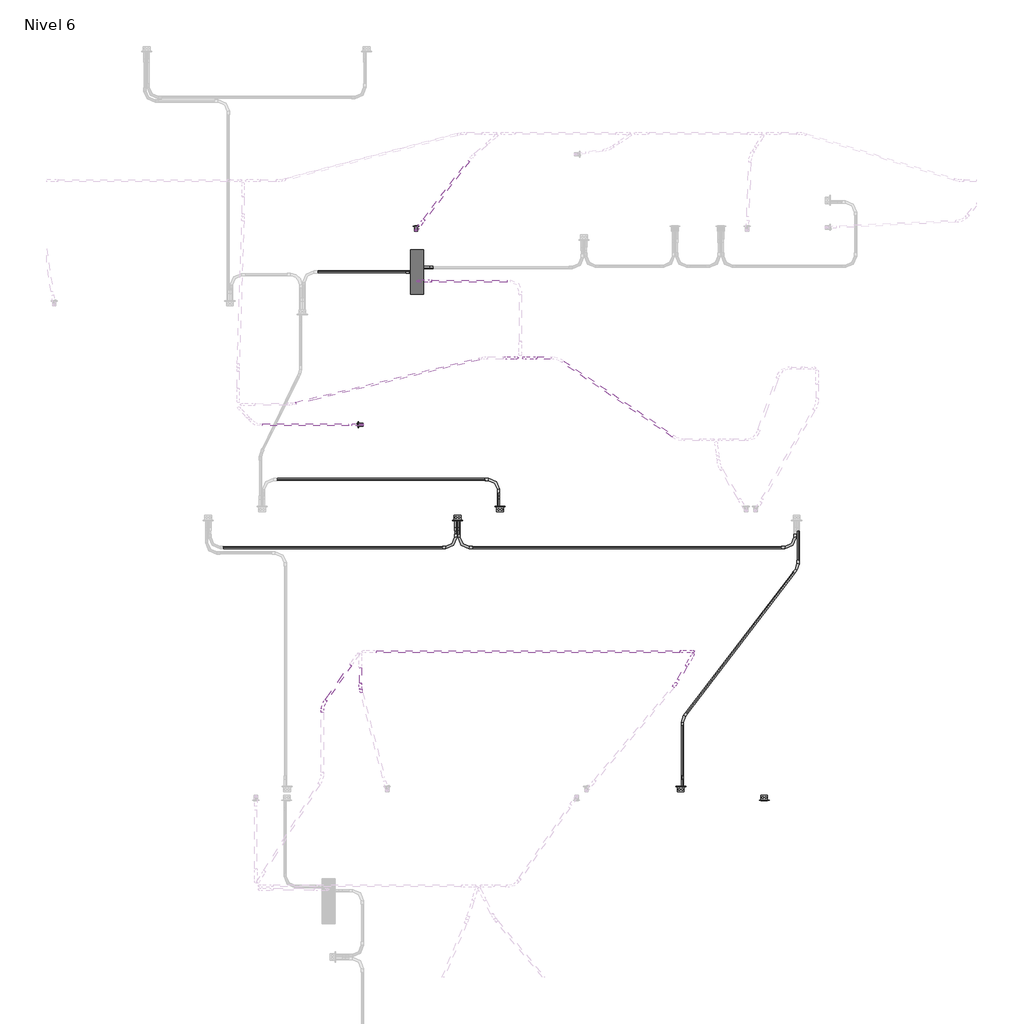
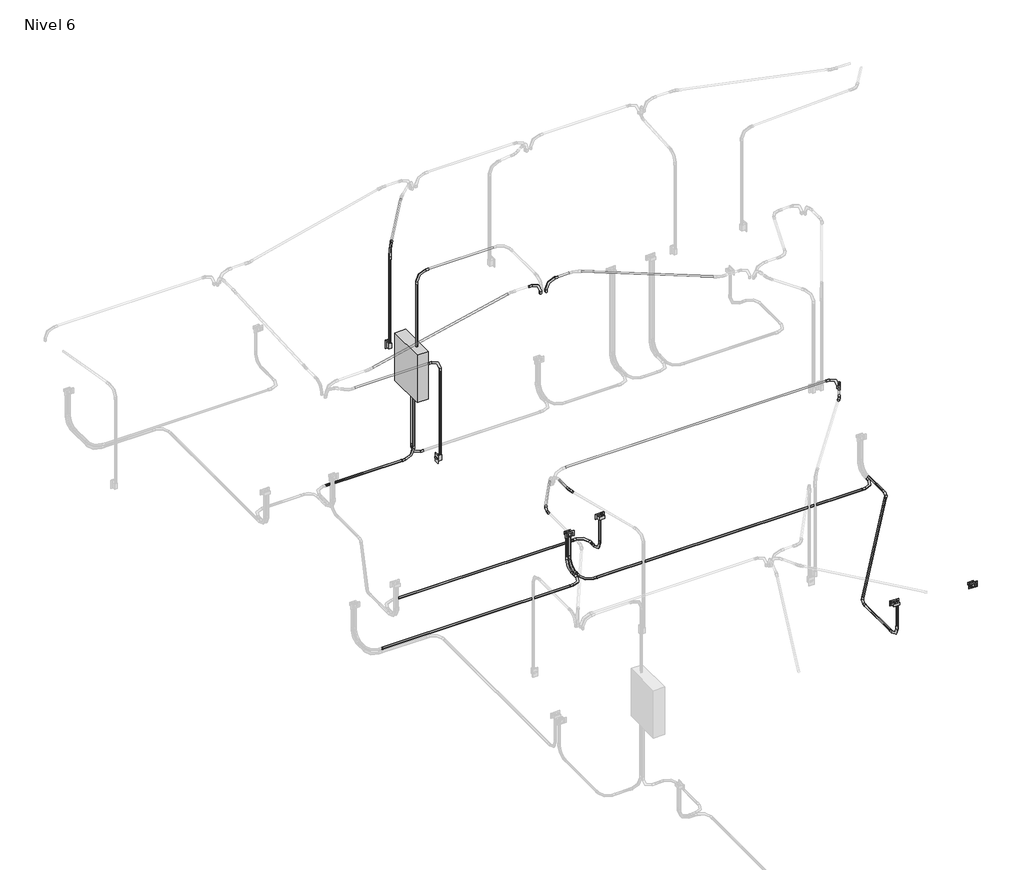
# One storey, part 7 of 9: 29 cable carrier segments, 22 cable carrier fittings, 5 proxies, 2 switching devices.
"""IFC4 building model written with IfcOpenShell, lengths in millimetres."""

from ifc_helpers import new_model, si_unit, point, frame, frame_2d, origin, place, context, project, spatial, circle_curve, trimmed, segment, composite_curve, outline, extrude, transform, mapped, element, save
from components import proxy_125_a_fe578df2, gfci_180f1b41, m_codo_de_tubo_extremo_liso_pvc_9da73e12, m_codo_de_tubo_extremo_liso_pvc_a9b8cca8, m_codo_de_tubo_extremo_liso_pvc_102f0f41, m_codo_de_tubo_extremo_liso_pvc_a4cd2416, m_codo_de_tubo_extremo_liso_pvc_3c3806b2, m_codo_de_tubo_extremo_liso_pvc_4ed3fce8, switching_device_22fed34b

model = new_model("IFC4")

# Units and contexts
model_context = context("Model", 3, world=origin())
ifc_project = project(units=[si_unit("LENGTHUNIT", "METRE", prefix="MILLI")], contexts=[model_context])

# Site, building, storey
site = spatial("IfcSite", under=ifc_project)
building = spatial("IfcBuilding", under=site)
storey = spatial("IfcBuildingStorey", under=building, Name="Nivel 6", Elevation=13400.0)

# Proxies
placement = place(None, origin())
proxy_125_a_shape = proxy_125_a_fe578df2(model_context)
element("IfcBuildingElementProxy", 1, Name="M_Cuadro de control de accesorios e iluminación - 480V MLO : 125 A", ObjectType="M_Cuadro de control de accesorios e iluminación - 480V MLO : 125 A", at=placement, inside=storey, context=model_context, shape_type="MappedRepresentation", body=[
    mapped(proxy_125_a_shape, transform((1335.0, 15019.551951, 14226.1274047), x_axis=(0.0, 1.0, 0.0), y_axis=(0.0, 0.0, 1.0), z_axis=(1.0, 0.0, 0.0))),
])
gfci_shape = gfci_180f1b41(model_context)
element("IfcBuildingElementProxy", 2, Name="Tomacorriente doble 220V : GFCI", ObjectType="Tomacorriente doble 220V : GFCI", at=placement, inside=storey, context=model_context, shape_type="MappedRepresentation", body=[
    mapped(gfci_shape, transform((2203.1210977, 12365.0, 13800.0), x_axis=(0.0, 0.0, 1.0), y_axis=(1.0, 0.0, 0.0), z_axis=(0.0, 1.0, 0.0))),
])
element("IfcBuildingElementProxy", 3, Name="Tomacorriente doble 220V : GFCI", ObjectType="Tomacorriente doble 220V : GFCI", at=placement, inside=storey, context=model_context, shape_type="MappedRepresentation", body=[
    mapped(gfci_shape, transform((1721.0092012, 12215.0, 13800.0), x_axis=(0.0, 0.0, 1.0), y_axis=(-1.0, 0.0, 0.0), z_axis=(0.0, -1.0, 0.0))),
])
element("IfcBuildingElementProxy", 4, Name="Tomacorriente doble 220V : GFCI", ObjectType="Tomacorriente doble 220V : GFCI", at=placement, inside=storey, context=model_context, shape_type="MappedRepresentation", body=[
    mapped(gfci_shape, transform((4247.1818589, 9199.6373182, 13800.0), x_axis=(0.0, 0.0, 1.0), y_axis=(1.0, 0.0, 0.0), z_axis=(0.0, 1.0, 0.0))),
])
element("IfcBuildingElementProxy", 5, Name="Tomacorriente doble 220V : GFCI", ObjectType="Tomacorriente doble 220V : GFCI", at=placement, inside=storey, context=model_context, shape_type="MappedRepresentation", body=[
    mapped(gfci_shape, transform((5190.9059958, 9049.6373182, 13800.0), x_axis=(0.0, 0.0, 1.0), y_axis=(-1.0, 0.0, 0.0), z_axis=(0.0, -1.0, 0.0))),
])

# Cable carrier fittings
m_codo_de_tubo_extremo_liso_pvc_shape = m_codo_de_tubo_extremo_liso_pvc_9da73e12(model_context)
element("IfcCableCarrierFitting", 6, ObjectType="M_Codo de tubo - Extremo liso - PVC : CODO POTENCIA", at=placement, inside=storey, context=model_context, shape_type="MappedRepresentation", body=[
    mapped(m_codo_de_tubo_extremo_liso_pvc_shape, transform((2185.0892778, 12335.3628882, 13330.0), x_axis=(0.0, 0.0, -1.0), y_axis=(0.0, 1.0, 0.0), z_axis=(1.0, 0.0, 0.0))),
])
element("IfcCableCarrierFitting", 7, ObjectType="M_Codo de tubo - Extremo liso - PVC : CODO POTENCIA", at=placement, inside=storey, context=model_context, shape_type="MappedRepresentation", body=[
    mapped(m_codo_de_tubo_extremo_liso_pvc_shape, transform((2185.0892778, 12675.3628882, 13330.0), x_axis=(0.0, 1.0, 0.0), y_axis=(-1.0, 0.0, 0.0), z_axis=(0.0, 0.0, 1.0))),
])
element("IfcCableCarrierFitting", 8, ObjectType="M_Codo de tubo - Extremo liso - PVC : CODO POTENCIA", at=placement, inside=storey, context=model_context, shape_type="MappedRepresentation", body=[
    mapped(m_codo_de_tubo_extremo_liso_pvc_shape, transform((1739.041021, 12244.6371118, 13330.0), x_axis=(0.0, 0.0, -1.0), y_axis=(0.0, -1.0, 0.0), z_axis=(-1.0, 0.0, 0.0))),
])
element("IfcCableCarrierFitting", 9, ObjectType="M_Codo de tubo - Extremo liso - PVC : CODO POTENCIA", at=placement, inside=storey, context=model_context, shape_type="MappedRepresentation", body=[
    mapped(m_codo_de_tubo_extremo_liso_pvc_shape, transform((4265.2136788, 9170.0002064, 13330.0), x_axis=(0.0, 0.0, -1.0), y_axis=(0.0, 1.0, 0.0), z_axis=(1.0, 0.0, 0.0))),
])
element("IfcCableCarrierFitting", 10, ObjectType="M_Codo de tubo - Extremo liso - PVC : CODO POTENCIA", at=placement, inside=storey, context=model_context, shape_type="MappedRepresentation", body=[
    mapped(m_codo_de_tubo_extremo_liso_pvc_shape, transform((1739.041021, 11904.6371118, 13330.0), x_axis=(0.0, -1.0, 0.0), y_axis=(1.0, 0.0, 0.0), z_axis=(0.0, 0.0, 1.0))),
])
element("IfcCableCarrierFitting", 11, ObjectType="M_Codo de tubo - Extremo liso - PVC : CODO POTENCIA", at=placement, inside=storey, context=model_context, shape_type="MappedRepresentation", body=[
    mapped(m_codo_de_tubo_extremo_liso_pvc_shape, transform((5539.0954829, 11904.6371118, 13330.0), x_axis=(1.0, 0.0, 0.0), y_axis=(0.0, 1.0, 0.0), z_axis=(0.0, 0.0, 1.0))),
])
element("IfcCableCarrierFitting", 12, ObjectType="M_Codo de tubo - Extremo liso - PVC : CODO POTENCIA", at=placement, inside=storey, context=model_context, shape_type="MappedRepresentation", body=[
    mapped(m_codo_de_tubo_extremo_liso_pvc_shape, transform((1702.9773813, 11904.6371118, 13330.0), x_axis=(1.0, 0.0, 0.0), y_axis=(0.0, 1.0, 0.0), z_axis=(0.0, 0.0, 1.0))),
])
element("IfcCableCarrierFitting", 13, ObjectType="M_Codo de tubo - Extremo liso - PVC : CODO POTENCIA", at=placement, inside=storey, context=model_context, shape_type="MappedRepresentation", body=[
    mapped(m_codo_de_tubo_extremo_liso_pvc_shape, transform((1702.9773813, 12244.6371118, 13330.0), x_axis=(0.0, 0.0, -1.0), y_axis=(0.0, -1.0, 0.0), z_axis=(-1.0, 0.0, 0.0))),
])
element("IfcCableCarrierFitting", 14, ObjectType="M_Codo de tubo - Extremo liso - PVC : CODO POTENCIA", at=placement, inside=storey, context=model_context, shape_type="MappedRepresentation", body=[
    mapped(m_codo_de_tubo_extremo_liso_pvc_shape, transform((1294.1893004, 15069.6371118, 13330.0), x_axis=(-1.0, 0.0, 0.0), y_axis=(0.0, 0.0, 1.0), z_axis=(0.0, 1.0, 0.0))),
])
element("IfcCableCarrierFitting", 15, ObjectType="M_Codo de tubo - Extremo liso - PVC : CODO POTENCIA", at=placement, inside=storey, context=model_context, shape_type="MappedRepresentation", body=[
    mapped(m_codo_de_tubo_extremo_liso_pvc_shape, transform((1290.3238393, 15020.5396141, 13330.0), x_axis=(1.0, 0.0, 0.0), y_axis=(0.0, 0.0, 1.0), z_axis=(0.0, -1.0, 0.0))),
])
m_codo_de_tubo_extremo_liso_pvc_2_shape = m_codo_de_tubo_extremo_liso_pvc_a9b8cca8(model_context)
element("IfcCableCarrierFitting", 16, ObjectType="M_Codo de tubo - Extremo liso - PVC : CODO POTENCIA", at=placement, inside=storey, context=model_context, shape_type="MappedRepresentation", body=[
    mapped(m_codo_de_tubo_extremo_liso_pvc_2_shape, transform((4265.2136788, 9970.0002064, 13330.0), x_axis=(-0.6070852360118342, -0.7946367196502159, 0.0), y_axis=(0.7946367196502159, -0.6070852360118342, 0.0), z_axis=(0.0, 0.0, 1.0))),
])
element("IfcCableCarrierFitting", 17, ObjectType="M_Codo de tubo - Extremo liso - PVC : CODO POTENCIA", at=placement, inside=storey, context=model_context, shape_type="MappedRepresentation", body=[
    mapped(m_codo_de_tubo_extremo_liso_pvc_2_shape, transform((5575.1591225, 11684.6371118, 13330.0), x_axis=(0.6070852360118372, 0.7946367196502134, 0.0), y_axis=(-0.7946367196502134, 0.6070852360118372, 0.0), z_axis=(0.0, 0.0, 1.0))),
])
element("IfcCableCarrierFitting", 18, ObjectType="M_Codo de tubo - Extremo liso - PVC : CODO ILUMINACION", at=placement, inside=storey, context=model_context, shape_type="MappedRepresentation", body=[
    mapped(m_codo_de_tubo_extremo_liso_pvc_shape, transform((2469.436921, 14047.5205481, 15950.0), x_axis=(-1.0, 0.0, 0.0), y_axis=(0.0, 0.0, -1.0), z_axis=(0.0, -1.0, 0.0))),
])
element("IfcCableCarrierFitting", 19, ObjectType="M_Codo de tubo - Extremo liso - PVC : CODO ILUMINACION", at=placement, inside=storey, context=model_context, shape_type="MappedRepresentation", body=[
    mapped(m_codo_de_tubo_extremo_liso_pvc_shape, transform((1273.3089238, 14916.0485453, 15950.0), x_axis=(-1.0, 0.0, 0.0), y_axis=(0.0, 0.0, -1.0), z_axis=(0.0, -1.0, 0.0))),
])
element("IfcCableCarrierFitting", 20, ObjectType="M_Codo de tubo - Extremo liso - PVC : CODO ILUMINACION", at=placement, inside=storey, context=model_context, shape_type="MappedRepresentation", body=[
    mapped(m_codo_de_tubo_extremo_liso_pvc_shape, transform((1253.0914815, 15491.8611243, 15950.0), x_axis=(0.0, 0.0, 1.0), y_axis=(0.6000012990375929, 0.7999990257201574, 0.0), z_axis=(-0.7999990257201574, 0.6000012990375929, 0.0))),
])
element("IfcCableCarrierFitting", 21, ObjectType="M_Codo de tubo - Extremo liso - PVC : CODO ILUMINACION", at=placement, inside=storey, context=model_context, shape_type="MappedRepresentation", body=[
    mapped(m_codo_de_tubo_extremo_liso_pvc_shape, transform((643.1388757, 13292.5115575, 15950.0), x_axis=(0.0, 0.0, 1.0), y_axis=(-1.0, 0.0, 0.0), z_axis=(0.0, -1.0, 0.0))),
])
element("IfcCableCarrierFitting", 22, ObjectType="M_Codo de tubo - Extremo liso - PVC : CODO ILUMINACION", at=placement, inside=storey, context=model_context, shape_type="MappedRepresentation", body=[
    mapped(m_codo_de_tubo_extremo_liso_pvc_shape, transform((4385.5653238, 10696.3649406, 15950.0), x_axis=(0.4999999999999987, 0.8660254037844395, 0.0), y_axis=(0.0, 0.0, -1.0000000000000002), z_axis=(-0.8660254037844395, 0.4999999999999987, 0.0))),
])
m_codo_de_tubo_extremo_liso_pvc_3_shape = m_codo_de_tubo_extremo_liso_pvc_102f0f41(model_context)
element("IfcCableCarrierFitting", 23, ObjectType="M_Codo de tubo - Extremo liso - PVC : CODO ILUMINACION", at=placement, inside=storey, context=model_context, shape_type="MappedRepresentation", body=[
    mapped(m_codo_de_tubo_extremo_liso_pvc_3_shape, transform((2397.1809266, 14047.5205481, 15950.0), x_axis=(1.0, 0.0, 0.0), y_axis=(0.0, 0.0, 1.0), z_axis=(0.0, -1.0, 0.0))),
])
element("IfcCableCarrierFitting", 24, ObjectType="M_Codo de tubo - Extremo liso - PVC : CODO ILUMINACION", at=placement, inside=storey, context=model_context, shape_type="MappedRepresentation", body=[
    mapped(m_codo_de_tubo_extremo_liso_pvc_3_shape, transform((4388.2642835, 10728.1040304, 15950.0), x_axis=(1.0, 0.0, 0.0), y_axis=(0.0, 0.0, 1.0), z_axis=(0.0, -1.0, 0.0))),
])
m_codo_de_tubo_extremo_liso_pvc_4_shape = m_codo_de_tubo_extremo_liso_pvc_a4cd2416(model_context)
element("IfcCableCarrierFitting", 25, ObjectType="M_Codo de tubo - Extremo liso - PVC : CODO ILUMINACION", at=placement, inside=storey, context=model_context, shape_type="MappedRepresentation", body=[
    mapped(m_codo_de_tubo_extremo_liso_pvc_4_shape, transform((192.5301532, 10117.4650071, 15950.0), x_axis=(-0.5735764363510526, -0.8191520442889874, 0.0), y_axis=(0.8191520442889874, -0.5735764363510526, 0.0), z_axis=(0.0, 0.0, 1.0))),
])
m_codo_de_tubo_extremo_liso_pvc_5_shape = m_codo_de_tubo_extremo_liso_pvc_3c3806b2(model_context)
element("IfcCableCarrierFitting", 26, ObjectType="M_Codo de tubo - Extremo liso - PVC : CODO ILUMINACION", at=placement, inside=storey, context=model_context, shape_type="MappedRepresentation", body=[
    mapped(m_codo_de_tubo_extremo_liso_pvc_5_shape, transform((622.9365839, 10316.8838113, 15950.0), x_axis=(0.0, -1.0, 0.0), y_axis=(1.0, 0.0, 0.0), z_axis=(0.0, 0.0, 1.0))),
])
m_codo_de_tubo_extremo_liso_pvc_6_shape = m_codo_de_tubo_extremo_liso_pvc_4ed3fce8(model_context)
element("IfcCableCarrierFitting", 27, ObjectType="M_Codo de tubo - Extremo liso - PVC : CODO ILUMINACION", at=placement, inside=storey, context=model_context, shape_type="MappedRepresentation", body=[
    mapped(m_codo_de_tubo_extremo_liso_pvc_6_shape, transform((4195.0653238, 10366.4092617, 15950.0), x_axis=(0.6445966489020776, 0.7645228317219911, 0.0), y_axis=(-0.7645228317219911, 0.6445966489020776, 0.0), z_axis=(0.0, 0.0, 1.0))),
])

# Cable carrier segments
element("IfcCableCarrierSegment", 28, ObjectType="PVC-SEL, POTENCIA", at=placement, inside=storey, context=model_context, shape_type="SweptSolid", body=[
    extrude(outline(composite_curve([segment(trimmed(circle_curve(frame_2d((13330.0, 2185.0892778)), 11.71), [point((13330.0, 2196.7992778))], [point((13341.71, 2185.0892778))], False, "CARTESIAN"), True, "CONTINUOUS"), segment(trimmed(circle_curve(frame_2d((13330.0, 2185.0892778)), 11.71), [point((13341.71, 2185.0892778))], [point((13330.0, 2173.3792778))], False, "CARTESIAN"), True, "CONTINUOUS"), segment(trimmed(circle_curve(frame_2d((13330.0, 2185.0892778)), 11.71), [point((13330.0, 2173.3792778))], [point((13318.29, 2185.0892778))], False, "CARTESIAN"), True, "CONTINUOUS"), segment(trimmed(circle_curve(frame_2d((13330.0, 2185.0892778)), 11.71), [point((13318.29, 2185.0892778))], [point((13330.0, 2196.7992778))], False, "CARTESIAN"), True, "CONTINUOUS")], self_intersect=False)), frame((0.0, 12487.7628882, 0.0), z_axis=(0.0, 1.0, 0.0), x_axis=(0.0, 0.0, 1.0)), (0.0, 0.0, 1.0), 35.2),
])
element("IfcCableCarrierSegment", 29, ObjectType="PVC-SEL, POTENCIA", at=placement, inside=storey, context=model_context, shape_type="SweptSolid", body=[
    extrude(outline(composite_curve([segment(trimmed(circle_curve(frame_2d((2185.0892778, 12335.3628882)), 11.71), [point((2196.7992778, 12335.3628882))], [point((2185.0892778, 12323.6528882))], False, "CARTESIAN"), True, "CONTINUOUS"), segment(trimmed(circle_curve(frame_2d((2185.0892778, 12335.3628882)), 11.71), [point((2185.0892778, 12323.6528882))], [point((2173.3792778, 12335.3628882))], False, "CARTESIAN"), True, "CONTINUOUS"), segment(trimmed(circle_curve(frame_2d((2185.0892778, 12335.3628882)), 11.71), [point((2173.3792778, 12335.3628882))], [point((2185.0892778, 12347.0728882))], False, "CARTESIAN"), True, "CONTINUOUS"), segment(trimmed(circle_curve(frame_2d((2185.0892778, 12335.3628882)), 11.71), [point((2185.0892778, 12347.0728882))], [point((2196.7992778, 12335.3628882))], False, "CARTESIAN"), True, "CONTINUOUS")], self_intersect=False)), frame((0.0, 0.0, 13482.4), z_axis=(0.0, 0.0, 1.0), x_axis=(1.0, 0.0, 0.0)), (0.0, 0.0, 1.0), 297.3020537),
])
element("IfcCableCarrierSegment", 30, ObjectType="PVC-SEL, POTENCIA", at=placement, inside=storey, context=model_context, shape_type="SweptSolid", body=[
    extrude(outline(composite_curve([segment(trimmed(circle_curve(frame_2d((12675.3628882, 13330.0)), 11.71), [point((12687.0728882, 13330.0))], [point((12675.3628882, 13318.29))], False, "CARTESIAN"), True, "CONTINUOUS"), segment(trimmed(circle_curve(frame_2d((12675.3628882, 13330.0)), 11.71), [point((12675.3628882, 13318.29))], [point((12663.6528882, 13330.0))], False, "CARTESIAN"), True, "CONTINUOUS"), segment(trimmed(circle_curve(frame_2d((12675.3628882, 13330.0)), 11.71), [point((12663.6528882, 13330.0))], [point((12675.3628882, 13341.71))], False, "CARTESIAN"), True, "CONTINUOUS"), segment(trimmed(circle_curve(frame_2d((12675.3628882, 13330.0)), 11.71), [point((12675.3628882, 13341.71))], [point((12687.0728882, 13330.0))], False, "CARTESIAN"), True, "CONTINUOUS")], self_intersect=False)), frame((-319.161029, 0.0, 0.0), z_axis=(1.0, 0.0, 0.0), x_axis=(0.0, 1.0, 0.0)), (0.0, 0.0, 1.0), 2351.8503068),
])
element("IfcCableCarrierSegment", 31, ObjectType="PVC-SEL, POTENCIA", at=placement, inside=storey, context=model_context, shape_type="SweptSolid", body=[
    extrude(outline(composite_curve([segment(trimmed(circle_curve(frame_2d((15020.5396141, 13330.0)), 11.71), [point((15008.8296141, 13330.0))], [point((15020.5396141, 13341.71))], False, "CARTESIAN"), True, "CONTINUOUS"), segment(trimmed(circle_curve(frame_2d((15020.5396141, 13330.0)), 11.71), [point((15020.5396141, 13341.71))], [point((15032.2496141, 13330.0))], False, "CARTESIAN"), True, "CONTINUOUS"), segment(trimmed(circle_curve(frame_2d((15020.5396141, 13330.0)), 11.71), [point((15032.2496141, 13330.0))], [point((15020.5396141, 13318.29))], False, "CARTESIAN"), True, "CONTINUOUS"), segment(trimmed(circle_curve(frame_2d((15020.5396141, 13330.0)), 11.71), [point((15020.5396141, 13318.29))], [point((15008.8296141, 13330.0))], False, "CARTESIAN"), True, "CONTINUOUS")], self_intersect=False)), frame((136.4600514, 0.0, 0.0), z_axis=(1.0, 0.0, 0.0), x_axis=(0.0, 1.0, 0.0)), (0.0, 0.0, 1.0), 1001.4637879),
])
element("IfcCableCarrierSegment", 32, ObjectType="PVC-SEL, POTENCIA", at=placement, inside=storey, context=model_context, shape_type="SweptSolid", body=[
    extrude(outline(composite_curve([segment(trimmed(circle_curve(frame_2d((13330.0, 1702.9773813)), 11.71), [point((13330.0, 1714.6873813))], [point((13341.71, 1702.9773813))], False, "CARTESIAN"), True, "CONTINUOUS"), segment(trimmed(circle_curve(frame_2d((13330.0, 1702.9773813)), 11.71), [point((13341.71, 1702.9773813))], [point((13330.0, 1691.2673813))], False, "CARTESIAN"), True, "CONTINUOUS"), segment(trimmed(circle_curve(frame_2d((13330.0, 1702.9773813)), 11.71), [point((13330.0, 1691.2673813))], [point((13318.29, 1702.9773813))], False, "CARTESIAN"), True, "CONTINUOUS"), segment(trimmed(circle_curve(frame_2d((13330.0, 1702.9773813)), 11.71), [point((13318.29, 1702.9773813))], [point((13330.0, 1714.6873813))], False, "CARTESIAN"), True, "CONTINUOUS")], self_intersect=False)), frame((0.0, 12057.0371118, 0.0), z_axis=(0.0, 1.0, 0.0), x_axis=(0.0, 0.0, 1.0)), (0.0, 0.0, 1.0), 35.2),
])
element("IfcCableCarrierSegment", 33, ObjectType="PVC-SEL, POTENCIA", at=placement, inside=storey, context=model_context, shape_type="SweptSolid", body=[
    extrude(outline(composite_curve([segment(trimmed(circle_curve(frame_2d((1702.9773813, 12244.6371118)), 11.71), [point((1714.6873813, 12244.6371118))], [point((1702.9773813, 12232.9271118))], False, "CARTESIAN"), True, "CONTINUOUS"), segment(trimmed(circle_curve(frame_2d((1702.9773813, 12244.6371118)), 11.71), [point((1702.9773813, 12232.9271118))], [point((1691.2673813, 12244.6371118))], False, "CARTESIAN"), True, "CONTINUOUS"), segment(trimmed(circle_curve(frame_2d((1702.9773813, 12244.6371118)), 11.71), [point((1691.2673813, 12244.6371118))], [point((1702.9773813, 12256.3471118))], False, "CARTESIAN"), True, "CONTINUOUS"), segment(trimmed(circle_curve(frame_2d((1702.9773813, 12244.6371118)), 11.71), [point((1702.9773813, 12256.3471118))], [point((1714.6873813, 12244.6371118))], False, "CARTESIAN"), True, "CONTINUOUS")], self_intersect=False)), frame((0.0, 0.0, 13482.4), z_axis=(0.0, 0.0, 1.0), x_axis=(1.0, 0.0, 0.0)), (0.0, 0.0, 1.0), 297.3020537),
])
element("IfcCableCarrierSegment", 34, ObjectType="PVC-SEL, POTENCIA", at=placement, inside=storey, context=model_context, shape_type="SweptSolid", body=[
    extrude(outline(composite_curve([segment(trimmed(circle_curve(frame_2d((13330.0, 1739.041021)), 11.71), [point((13330.0, 1727.331021))], [point((13318.29, 1739.041021))], False, "CARTESIAN"), True, "CONTINUOUS"), segment(trimmed(circle_curve(frame_2d((13330.0, 1739.041021)), 11.71), [point((13318.29, 1739.041021))], [point((13330.0, 1750.751021))], False, "CARTESIAN"), True, "CONTINUOUS"), segment(trimmed(circle_curve(frame_2d((13330.0, 1739.041021)), 11.71), [point((13330.0, 1750.751021))], [point((13341.71, 1739.041021))], False, "CARTESIAN"), True, "CONTINUOUS"), segment(trimmed(circle_curve(frame_2d((13330.0, 1739.041021)), 11.71), [point((13341.71, 1739.041021))], [point((13330.0, 1727.331021))], False, "CARTESIAN"), True, "CONTINUOUS")], self_intersect=False)), frame((0.0, 12057.0371118, 0.0), z_axis=(0.0, 1.0, 0.0), x_axis=(0.0, 0.0, 1.0)), (0.0, 0.0, 1.0), 35.2),
])
element("IfcCableCarrierSegment", 35, ObjectType="PVC-SEL, POTENCIA", at=placement, inside=storey, context=model_context, shape_type="SweptSolid", body=[
    extrude(outline(composite_curve([segment(trimmed(circle_curve(frame_2d((1739.041021, 12244.6371118)), 11.71), [point((1750.751021, 12244.6371118))], [point((1739.041021, 12232.9271118))], False, "CARTESIAN"), True, "CONTINUOUS"), segment(trimmed(circle_curve(frame_2d((1739.041021, 12244.6371118)), 11.71), [point((1739.041021, 12232.9271118))], [point((1727.331021, 12244.6371118))], False, "CARTESIAN"), True, "CONTINUOUS"), segment(trimmed(circle_curve(frame_2d((1739.041021, 12244.6371118)), 11.71), [point((1727.331021, 12244.6371118))], [point((1739.041021, 12256.3471118))], False, "CARTESIAN"), True, "CONTINUOUS"), segment(trimmed(circle_curve(frame_2d((1739.041021, 12244.6371118)), 11.71), [point((1739.041021, 12256.3471118))], [point((1750.751021, 12244.6371118))], False, "CARTESIAN"), True, "CONTINUOUS")], self_intersect=False)), frame((0.0, 0.0, 13482.4), z_axis=(0.0, 0.0, 1.0), x_axis=(1.0, 0.0, 0.0)), (0.0, 0.0, 1.0), 297.3020537),
])
element("IfcCableCarrierSegment", 36, ObjectType="PVC-SEL, POTENCIA", at=placement, inside=storey, context=model_context, shape_type="SweptSolid", body=[
    extrude(outline(composite_curve([segment(trimmed(circle_curve(frame_2d((13330.0, 4265.2136788)), 11.71), [point((13330.0, 4276.9236788))], [point((13341.71, 4265.2136788))], False, "CARTESIAN"), True, "CONTINUOUS"), segment(trimmed(circle_curve(frame_2d((13330.0, 4265.2136788)), 11.71), [point((13341.71, 4265.2136788))], [point((13330.0, 4253.5036788))], False, "CARTESIAN"), True, "CONTINUOUS"), segment(trimmed(circle_curve(frame_2d((13330.0, 4265.2136788)), 11.71), [point((13330.0, 4253.5036788))], [point((13318.29, 4265.2136788))], False, "CARTESIAN"), True, "CONTINUOUS"), segment(trimmed(circle_curve(frame_2d((13330.0, 4265.2136788)), 11.71), [point((13318.29, 4265.2136788))], [point((13330.0, 4276.9236788))], False, "CARTESIAN"), True, "CONTINUOUS")], self_intersect=False)), frame((0.0, 9322.4002064, 0.0), z_axis=(0.0, 1.0, 0.0), x_axis=(0.0, 0.0, 1.0)), (0.0, 0.0, 1.0), 570.8348809),
])
element("IfcCableCarrierSegment", 37, ObjectType="PVC-SEL, POTENCIA", at=placement, inside=storey, context=model_context, shape_type="SweptSolid", body=[
    extrude(outline(composite_curve([segment(trimmed(circle_curve(frame_2d((4265.2136788, 9170.0002064)), 11.71), [point((4276.9236788, 9170.0002064))], [point((4265.2136788, 9158.2902064))], False, "CARTESIAN"), True, "CONTINUOUS"), segment(trimmed(circle_curve(frame_2d((4265.2136788, 9170.0002064)), 11.71), [point((4265.2136788, 9158.2902064))], [point((4253.5036788, 9170.0002064))], False, "CARTESIAN"), True, "CONTINUOUS"), segment(trimmed(circle_curve(frame_2d((4265.2136788, 9170.0002064)), 11.71), [point((4253.5036788, 9170.0002064))], [point((4265.2136788, 9181.7102064))], False, "CARTESIAN"), True, "CONTINUOUS"), segment(trimmed(circle_curve(frame_2d((4265.2136788, 9170.0002064)), 11.71), [point((4265.2136788, 9181.7102064))], [point((4276.9236788, 9170.0002064))], False, "CARTESIAN"), True, "CONTINUOUS")], self_intersect=False)), frame((0.0, 0.0, 13482.4), z_axis=(0.0, 0.0, 1.0), x_axis=(1.0, 0.0, 0.0)), (0.0, 0.0, 1.0), 297.3020537),
])
element("IfcCableCarrierSegment", 38, ObjectType="PVC-SEL, POTENCIA", at=placement, inside=storey, context=model_context, shape_type="SweptSolid", body=[
    extrude(outline(composite_curve([segment(trimmed(circle_curve(frame_2d((11904.6371118, 13330.0)), 11.71), [point((11892.9271118, 13330.0))], [point((11904.6371118, 13341.71))], False, "CARTESIAN"), True, "CONTINUOUS"), segment(trimmed(circle_curve(frame_2d((11904.6371118, 13330.0)), 11.71), [point((11904.6371118, 13341.71))], [point((11916.3471118, 13330.0))], False, "CARTESIAN"), True, "CONTINUOUS"), segment(trimmed(circle_curve(frame_2d((11904.6371118, 13330.0)), 11.71), [point((11916.3471118, 13330.0))], [point((11904.6371118, 13318.29))], False, "CARTESIAN"), True, "CONTINUOUS"), segment(trimmed(circle_curve(frame_2d((11904.6371118, 13330.0)), 11.71), [point((11904.6371118, 13318.29))], [point((11892.9271118, 13330.0))], False, "CARTESIAN"), True, "CONTINUOUS")], self_intersect=False)), frame((-927.2465667, 0.0, 0.0), z_axis=(1.0, 0.0, 0.0), x_axis=(0.0, 1.0, 0.0)), (0.0, 0.0, 1.0), 2477.8239481),
])
element("IfcCableCarrierSegment", 39, ObjectType="PVC-SEL, POTENCIA", at=placement, inside=storey, context=model_context, shape_type="SweptSolid", body=[
    extrude(outline(composite_curve([segment(trimmed(circle_curve(frame_2d((11904.6371118, 13330.0)), 11.71), [point((11892.9271118, 13330.0))], [point((11904.6371118, 13341.71))], False, "CARTESIAN"), True, "CONTINUOUS"), segment(trimmed(circle_curve(frame_2d((11904.6371118, 13330.0)), 11.71), [point((11904.6371118, 13341.71))], [point((11916.3471118, 13330.0))], False, "CARTESIAN"), True, "CONTINUOUS"), segment(trimmed(circle_curve(frame_2d((11904.6371118, 13330.0)), 11.71), [point((11916.3471118, 13330.0))], [point((11904.6371118, 13318.29))], False, "CARTESIAN"), True, "CONTINUOUS"), segment(trimmed(circle_curve(frame_2d((11904.6371118, 13330.0)), 11.71), [point((11904.6371118, 13318.29))], [point((11892.9271118, 13330.0))], False, "CARTESIAN"), True, "CONTINUOUS")], self_intersect=False)), frame((1891.441021, 0.0, 0.0), z_axis=(1.0, 0.0, 0.0), x_axis=(0.0, 1.0, 0.0)), (0.0, 0.0, 1.0), 3495.2544619),
])
element("IfcCableCarrierSegment", 40, ObjectType="PVC-SEL, POTENCIA", at=placement, inside=storey, context=model_context, shape_type="SweptSolid", body=[
    extrude(outline(composite_curve([segment(trimmed(circle_curve(frame_2d((13330.0, 5575.1591225)), 11.71), [point((13330.0, 5563.4491225))], [point((13318.29, 5575.1591225))], False, "CARTESIAN"), True, "CONTINUOUS"), segment(trimmed(circle_curve(frame_2d((13330.0, 5575.1591225)), 11.71), [point((13318.29, 5575.1591225))], [point((13330.0, 5586.8691225))], False, "CARTESIAN"), True, "CONTINUOUS"), segment(trimmed(circle_curve(frame_2d((13330.0, 5575.1591225)), 11.71), [point((13330.0, 5586.8691225))], [point((13341.71, 5575.1591225))], False, "CARTESIAN"), True, "CONTINUOUS"), segment(trimmed(circle_curve(frame_2d((13330.0, 5575.1591225)), 11.71), [point((13341.71, 5575.1591225))], [point((13330.0, 5563.4491225))], False, "CARTESIAN"), True, "CONTINUOUS")], self_intersect=False)), frame((0.0, 11761.4022309, 0.0), z_axis=(0.0, 1.0, 0.0), x_axis=(0.0, 0.0, 1.0)), (0.0, 0.0, 1.0), 330.8348809),
])
element("IfcCableCarrierSegment", 41, ObjectType="PVC-SEL, POTENCIA", at=placement, inside=storey, context=model_context, shape_type="SweptSolid", body=[
    extrude(outline(composite_curve([segment(trimmed(circle_curve(frame_2d((0.0, 11.71)), 11.71), [point((11.7100001, 11.71))], [point((0.0, 0.0))], False, "CARTESIAN"), True, "CONTINUOUS"), segment(trimmed(circle_curve(frame_2d((0.0, 11.71)), 11.71), [point((0.0, 0.0))], [point((-11.71, 11.71))], False, "CARTESIAN"), True, "CONTINUOUS"), segment(trimmed(circle_curve(frame_2d((0.0, 11.71)), 11.71), [point((-11.71, 11.71))], [point((0.0, 23.42))], False, "CARTESIAN"), True, "CONTINUOUS"), segment(trimmed(circle_curve(frame_2d((0.0, 11.71)), 11.71), [point((0.0, 23.42))], [point((11.7100001, 11.71))], False, "CARTESIAN"), True, "CONTINUOUS")], self_intersect=False)), frame((4311.8166492, 10031.0005889, 13341.71), z_axis=(0.6070852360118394, 0.7946367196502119, 0.0), x_axis=(0.7946367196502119, -0.6070852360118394, 0.0)), (0.0, 0.0, 1.0), 2004.2317466),
])
element("IfcCableCarrierSegment", 42, ObjectType="PVC-SEL, POTENCIA", at=placement, inside=storey, context=model_context, shape_type="SweptSolid", body=[
    extrude(outline(composite_curve([segment(trimmed(circle_curve(frame_2d((1290.3238393, 15020.5396141)), 11.71), [point((1278.6138393, 15020.5396141))], [point((1290.3238393, 15032.2496141))], False, "CARTESIAN"), True, "CONTINUOUS"), segment(trimmed(circle_curve(frame_2d((1290.3238393, 15020.5396141)), 11.71), [point((1290.3238393, 15032.2496141))], [point((1302.0338393, 15020.5396141))], False, "CARTESIAN"), True, "CONTINUOUS"), segment(trimmed(circle_curve(frame_2d((1290.3238393, 15020.5396141)), 11.71), [point((1302.0338393, 15020.5396141))], [point((1290.3238393, 15008.8296141))], False, "CARTESIAN"), True, "CONTINUOUS"), segment(trimmed(circle_curve(frame_2d((1290.3238393, 15020.5396141)), 11.71), [point((1290.3238393, 15008.8296141))], [point((1278.6138393, 15020.5396141))], False, "CARTESIAN"), True, "CONTINUOUS")], self_intersect=False)), frame((0.0, 0.0, 13482.4), z_axis=(0.0, 0.0, 1.0), x_axis=(1.0, 0.0, 0.0)), (0.0, 0.0, 1.0), 817.6),
])
element("IfcCableCarrierSegment", 43, ObjectType="PVC-SEL, POTENCIA", at=placement, inside=storey, context=model_context, shape_type="SweptSolid", body=[
    extrude(outline(composite_curve([segment(trimmed(circle_curve(frame_2d((1294.1893004, 15069.6371118)), 11.71), [point((1282.4793004, 15069.6371118))], [point((1294.1893004, 15081.3471118))], False, "CARTESIAN"), True, "CONTINUOUS"), segment(trimmed(circle_curve(frame_2d((1294.1893004, 15069.6371118)), 11.71), [point((1294.1893004, 15081.3471118))], [point((1305.8993004, 15069.6371118))], False, "CARTESIAN"), True, "CONTINUOUS"), segment(trimmed(circle_curve(frame_2d((1294.1893004, 15069.6371118)), 11.71), [point((1305.8993004, 15069.6371118))], [point((1294.1893004, 15057.9271118))], False, "CARTESIAN"), True, "CONTINUOUS"), segment(trimmed(circle_curve(frame_2d((1294.1893004, 15069.6371118)), 11.71), [point((1294.1893004, 15057.9271118))], [point((1282.4793004, 15069.6371118))], False, "CARTESIAN"), True, "CONTINUOUS")], self_intersect=False)), frame((0.0, 0.0, 13482.4), z_axis=(0.0, 0.0, 1.0), x_axis=(1.0, 0.0, 0.0)), (0.0, 0.0, 1.0), 817.6),
])
element("IfcCableCarrierSegment", 44, ObjectType="PVC-SEL ILUMINACION", at=placement, inside=storey, context=model_context, shape_type="SweptSolid", body=[
    extrude(outline(composite_curve([segment(trimmed(circle_curve(frame_2d((0.0, -11.71)), 11.71), [point((-11.7099999, -11.71))], [point((0.0, 0.0))], False, "CARTESIAN"), True, "CONTINUOUS"), segment(trimmed(circle_curve(frame_2d((0.0, -11.71)), 11.71), [point((0.0, 0.0))], [point((11.71, -11.71))], False, "CARTESIAN"), True, "CONTINUOUS"), segment(trimmed(circle_curve(frame_2d((0.0, -11.71)), 11.71), [point((11.71, -11.71))], [point((0.0, -23.42))], False, "CARTESIAN"), True, "CONTINUOUS"), segment(trimmed(circle_curve(frame_2d((0.0, -11.71)), 11.71), [point((0.0, -23.42))], [point((-11.7099999, -11.71))], False, "CARTESIAN"), True, "CONTINUOUS")], self_intersect=False)), frame((4161.2662475, 13163.2690005, 15938.29), z_axis=(-0.8290123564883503, 0.5592302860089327, 0.0), x_axis=(0.5592302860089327, 0.8290123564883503, 0.0)), (0.0, 0.0, 1.0), 1508.14612),
])
element("IfcCableCarrierSegment", 45, ObjectType="PVC-SEL ILUMINACION", at=placement, inside=storey, context=model_context, shape_type="SweptSolid", body=[
    extrude(outline(composite_curve([segment(trimmed(circle_curve(frame_2d((14047.5205481, 15950.0)), 11.71), [point((14035.8105481, 15950.0))], [point((14047.5205481, 15961.71))], False, "CARTESIAN"), True, "CONTINUOUS"), segment(trimmed(circle_curve(frame_2d((14047.5205481, 15950.0)), 11.71), [point((14047.5205481, 15961.71))], [point((14059.2305481, 15950.0))], False, "CARTESIAN"), True, "CONTINUOUS"), segment(trimmed(circle_curve(frame_2d((14047.5205481, 15950.0)), 11.71), [point((14059.2305481, 15950.0))], [point((14047.5205481, 15938.29))], False, "CARTESIAN"), True, "CONTINUOUS"), segment(trimmed(circle_curve(frame_2d((14047.5205481, 15950.0)), 11.71), [point((14047.5205481, 15938.29))], [point((14035.8105481, 15950.0))], False, "CARTESIAN"), True, "CONTINUOUS")], self_intersect=False)), frame((2621.836921, 0.0, 0.0), z_axis=(1.0, 0.0, 0.0), x_axis=(0.0, 1.0, 0.0)), (0.0, 0.0, 1.0), 155.5521652),
])
element("IfcCableCarrierSegment", 46, ObjectType="PVC-SEL ILUMINACION", at=placement, inside=storey, context=model_context, shape_type="SweptSolid", body=[
    extrude(outline(composite_curve([segment(trimmed(circle_curve(frame_2d((0.0, 11.71)), 11.71), [point((11.71, 11.71))], [point((0.0, 0.0))], False, "CARTESIAN"), True, "CONTINUOUS"), segment(trimmed(circle_curve(frame_2d((0.0, 11.71)), 11.71), [point((0.0, 0.0))], [point((-11.7100001, 11.71))], False, "CARTESIAN"), True, "CONTINUOUS"), segment(trimmed(circle_curve(frame_2d((0.0, 11.71)), 11.71), [point((-11.7100001, 11.71))], [point((0.0, 23.42))], False, "CARTESIAN"), True, "CONTINUOUS"), segment(trimmed(circle_curve(frame_2d((0.0, 11.71)), 11.71), [point((0.0, 23.42))], [point((11.71, 11.71))], False, "CARTESIAN"), True, "CONTINUOUS")], self_intersect=False)), frame((-105.7231637, 13537.7750943, 15961.71), z_axis=(0.9722223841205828, 0.23405904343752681, 0.0), x_axis=(0.23405904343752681, -0.9722223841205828, 0.0)), (0.0, 0.0, 1.0), 2126.1849805),
])
element("IfcCableCarrierSegment", 47, ObjectType="PVC-SEL ILUMINACION", at=placement, inside=storey, context=model_context, shape_type="SweptSolid", body=[
    extrude(outline(composite_curve([segment(trimmed(circle_curve(frame_2d((10728.1040304, 15950.0)), 11.71), [point((10739.8140304, 15950.0))], [point((10728.1040304, 15938.29))], False, "CARTESIAN"), True, "CONTINUOUS"), segment(trimmed(circle_curve(frame_2d((10728.1040304, 15950.0)), 11.71), [point((10728.1040304, 15938.29))], [point((10716.3940304, 15950.0))], False, "CARTESIAN"), True, "CONTINUOUS"), segment(trimmed(circle_curve(frame_2d((10728.1040304, 15950.0)), 11.71), [point((10716.3940304, 15950.0))], [point((10728.1040304, 15961.71))], False, "CARTESIAN"), True, "CONTINUOUS"), segment(trimmed(circle_curve(frame_2d((10728.1040304, 15950.0)), 11.71), [point((10728.1040304, 15961.71))], [point((10739.8140304, 15950.0))], False, "CARTESIAN"), True, "CONTINUOUS")], self_intersect=False)), frame((805.556803, 0.0, 0.0), z_axis=(1.0, 0.0, 0.0), x_axis=(0.0, 1.0, 0.0)), (0.0, 0.0, 1.0), 3430.3074805),
])
element("IfcCableCarrierSegment", 48, ObjectType="PVC-SEL ILUMINACION", at=placement, inside=storey, context=model_context, shape_type="SweptSolid", body=[
    extrude(outline(composite_curve([segment(trimmed(circle_curve(frame_2d((14916.0485453, 15950.0)), 11.71), [point((14927.7585453, 15950.0))], [point((14916.0485453, 15938.29))], False, "CARTESIAN"), True, "CONTINUOUS"), segment(trimmed(circle_curve(frame_2d((14916.0485453, 15950.0)), 11.71), [point((14916.0485453, 15938.29))], [point((14904.3385453, 15950.0))], False, "CARTESIAN"), True, "CONTINUOUS"), segment(trimmed(circle_curve(frame_2d((14916.0485453, 15950.0)), 11.71), [point((14904.3385453, 15950.0))], [point((14916.0485453, 15961.71))], False, "CARTESIAN"), True, "CONTINUOUS"), segment(trimmed(circle_curve(frame_2d((14916.0485453, 15950.0)), 11.71), [point((14916.0485453, 15961.71))], [point((14927.7585453, 15950.0))], False, "CARTESIAN"), True, "CONTINUOUS")], self_intersect=False)), frame((1425.7089238, 0.0, 0.0), z_axis=(1.0, 0.0, 0.0), x_axis=(0.0, 1.0, 0.0)), (0.0, 0.0, 1.0), 855.2),
])
element("IfcCableCarrierSegment", 49, ObjectType="PVC-SEL ILUMINACION", at=placement, inside=storey, context=model_context, shape_type="SweptSolid", body=[
    extrude(outline(composite_curve([segment(trimmed(circle_curve(frame_2d((1273.3089238, 14916.0485453)), 11.71), [point((1261.5989238, 14916.0485453))], [point((1273.3089238, 14927.7585453))], False, "CARTESIAN"), True, "CONTINUOUS"), segment(trimmed(circle_curve(frame_2d((1273.3089238, 14916.0485453)), 11.71), [point((1273.3089238, 14927.7585453))], [point((1285.0189238, 14916.0485453))], False, "CARTESIAN"), True, "CONTINUOUS"), segment(trimmed(circle_curve(frame_2d((1273.3089238, 14916.0485453)), 11.71), [point((1285.0189238, 14916.0485453))], [point((1273.3089238, 14904.3385453))], False, "CARTESIAN"), True, "CONTINUOUS"), segment(trimmed(circle_curve(frame_2d((1273.3089238, 14916.0485453)), 11.71), [point((1273.3089238, 14904.3385453))], [point((1261.5989238, 14916.0485453))], False, "CARTESIAN"), True, "CONTINUOUS")], self_intersect=False)), frame((0.0, 0.0, 14900.0), z_axis=(0.0, 0.0, 1.0), x_axis=(1.0, 0.0, 0.0)), (0.0, 0.0, 1.0), 897.6),
])
element("IfcCableCarrierSegment", 50, ObjectType="PVC-SEL ILUMINACION", at=placement, inside=storey, context=model_context, shape_type="SweptSolid", body=[
    extrude(outline(composite_curve([segment(trimmed(circle_curve(frame_2d((0.0, -11.71)), 11.71), [point((-11.71, -11.71))], [point((0.0, 0.0))], False, "CARTESIAN"), True, "CONTINUOUS"), segment(trimmed(circle_curve(frame_2d((0.0, -11.71)), 11.71), [point((0.0, 0.0))], [point((11.71, -11.71))], False, "CARTESIAN"), True, "CONTINUOUS"), segment(trimmed(circle_curve(frame_2d((0.0, -11.71)), 11.71), [point((11.71, -11.71))], [point((0.0, -23.42))], False, "CARTESIAN"), True, "CONTINUOUS"), segment(trimmed(circle_curve(frame_2d((0.0, -11.71)), 11.71), [point((0.0, -23.42))], [point((-11.71, -11.71))], False, "CARTESIAN"), True, "CONTINUOUS")], self_intersect=False)), frame((1344.5316795, 15613.7809759, 15938.29), z_axis=(0.6063476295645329, 0.7951996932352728, 0.0), x_axis=(0.7951996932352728, -0.6063476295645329, 0.0)), (0.0, 0.0, 1.0), 831.5488522),
])
element("IfcCableCarrierSegment", 51, ObjectType="PVC-SEL ILUMINACION", at=placement, inside=storey, context=model_context, shape_type="SweptSolid", body=[
    extrude(outline(composite_curve([segment(trimmed(circle_curve(frame_2d((1253.0914815, 15491.8611243)), 11.71), [point((1241.3814815, 15491.8611243))], [point((1253.0914815, 15503.5711243))], False, "CARTESIAN"), True, "CONTINUOUS"), segment(trimmed(circle_curve(frame_2d((1253.0914815, 15491.8611243)), 11.71), [point((1253.0914815, 15503.5711243))], [point((1264.8014815, 15491.8611243))], False, "CARTESIAN"), True, "CONTINUOUS"), segment(trimmed(circle_curve(frame_2d((1253.0914815, 15491.8611243)), 11.71), [point((1264.8014815, 15491.8611243))], [point((1253.0914815, 15480.1511243))], False, "CARTESIAN"), True, "CONTINUOUS"), segment(trimmed(circle_curve(frame_2d((1253.0914815, 15491.8611243)), 11.71), [point((1253.0914815, 15480.1511243))], [point((1241.3814815, 15491.8611243))], False, "CARTESIAN"), True, "CONTINUOUS")], self_intersect=False)), frame((0.0, 0.0, 14640.2227463), z_axis=(0.0, 0.0, 1.0), x_axis=(1.0, 0.0, 0.0)), (0.0, 0.0, 1.0), 1157.3772537),
])
element("IfcCableCarrierSegment", 52, ObjectType="PVC-SEL ILUMINACION", at=placement, inside=storey, context=model_context, shape_type="SweptSolid", body=[
    extrude(outline(composite_curve([segment(trimmed(circle_curve(frame_2d((13292.5115575, 15950.0)), 11.71), [point((13280.8015575, 15950.0))], [point((13292.5115575, 15961.71))], False, "CARTESIAN"), True, "CONTINUOUS"), segment(trimmed(circle_curve(frame_2d((13292.5115575, 15950.0)), 11.71), [point((13292.5115575, 15961.71))], [point((13304.2215575, 15950.0))], False, "CARTESIAN"), True, "CONTINUOUS"), segment(trimmed(circle_curve(frame_2d((13292.5115575, 15950.0)), 11.71), [point((13304.2215575, 15950.0))], [point((13292.5115575, 15938.29))], False, "CARTESIAN"), True, "CONTINUOUS"), segment(trimmed(circle_curve(frame_2d((13292.5115575, 15950.0)), 11.71), [point((13292.5115575, 15938.29))], [point((13280.8015575, 15950.0))], False, "CARTESIAN"), True, "CONTINUOUS")], self_intersect=False)), frame((-481.1297295, 0.0, 0.0), z_axis=(1.0, 0.0, 0.0), x_axis=(0.0, 1.0, 0.0)), (0.0, 0.0, 1.0), 971.8686051),
])
element("IfcCableCarrierSegment", 53, ObjectType="PVC-SEL ILUMINACION", at=placement, inside=storey, context=model_context, shape_type="SweptSolid", body=[
    extrude(outline(composite_curve([segment(trimmed(circle_curve(frame_2d((643.1388757, 13292.5115575)), 11.71), [point((631.4288757, 13292.5115575))], [point((643.1388757, 13304.2215575))], False, "CARTESIAN"), True, "CONTINUOUS"), segment(trimmed(circle_curve(frame_2d((643.1388757, 13292.5115575)), 11.71), [point((643.1388757, 13304.2215575))], [point((654.8488757, 13292.5115575))], False, "CARTESIAN"), True, "CONTINUOUS"), segment(trimmed(circle_curve(frame_2d((643.1388757, 13292.5115575)), 11.71), [point((654.8488757, 13292.5115575))], [point((643.1388757, 13280.8015575))], False, "CARTESIAN"), True, "CONTINUOUS"), segment(trimmed(circle_curve(frame_2d((643.1388757, 13292.5115575)), 11.71), [point((643.1388757, 13280.8015575))], [point((631.4288757, 13292.5115575))], False, "CARTESIAN"), True, "CONTINUOUS")], self_intersect=False)), frame((0.0, 0.0, 14640.2227463), z_axis=(0.0, 0.0, 1.0), x_axis=(1.0, 0.0, 0.0)), (0.0, 0.0, 1.0), 1157.3772537),
])
element("IfcCableCarrierSegment", 54, ObjectType="PVC-SEL ILUMINACION", at=placement, inside=storey, context=model_context, shape_type="SweptSolid", body=[
    extrude(outline(composite_curve([segment(trimmed(circle_curve(frame_2d((0.0, -11.71)), 11.71), [point((-11.7099999, -11.71))], [point((0.0, 0.0))], False, "CARTESIAN"), True, "CONTINUOUS"), segment(trimmed(circle_curve(frame_2d((0.0, -11.71)), 11.71), [point((0.0, 0.0))], [point((11.7100001, -11.71))], False, "CARTESIAN"), True, "CONTINUOUS"), segment(trimmed(circle_curve(frame_2d((0.0, -11.71)), 11.71), [point((11.7100001, -11.71))], [point((0.0, -23.42))], False, "CARTESIAN"), True, "CONTINUOUS"), segment(trimmed(circle_curve(frame_2d((0.0, -11.71)), 11.71), [point((0.0, -23.42))], [point((-11.7099999, -11.71))], False, "CARTESIAN"), True, "CONTINUOUS")], self_intersect=False)), frame((235.0543367, 10178.1958351, 15938.29), z_axis=(0.5735764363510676, 0.8191520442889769, 0.0), x_axis=(0.8191520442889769, -0.5735764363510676, 0.0)), (0.0, 0.0, 1.0), 485.8613484),
])
element("IfcCableCarrierSegment", 55, ObjectType="PVC-SEL ILUMINACION", at=placement, inside=storey, context=model_context, shape_type="SweptSolid", body=[
    extrude(outline(composite_curve([segment(trimmed(circle_curve(frame_2d((15950.0, 622.9365839)), 11.71), [point((15950.0, 611.2265839))], [point((15938.29, 622.9365839))], False, "CARTESIAN"), True, "CONTINUOUS"), segment(trimmed(circle_curve(frame_2d((15950.0, 622.9365839)), 11.71), [point((15938.29, 622.9365839))], [point((15950.0, 634.6465839))], False, "CARTESIAN"), True, "CONTINUOUS"), segment(trimmed(circle_curve(frame_2d((15950.0, 622.9365839)), 11.71), [point((15950.0, 634.6465839))], [point((15961.71, 622.9365839))], False, "CARTESIAN"), True, "CONTINUOUS"), segment(trimmed(circle_curve(frame_2d((15950.0, 622.9365839)), 11.71), [point((15961.71, 622.9365839))], [point((15950.0, 611.2265839))], False, "CARTESIAN"), True, "CONTINUOUS")], self_intersect=False)), frame((0.0, 10370.1164436, 0.0), z_axis=(0.0, 1.0, 0.0), x_axis=(0.0, 0.0, 1.0)), (0.0, 0.0, 1.0), 175.3673677),
])
element("IfcCableCarrierSegment", 56, ObjectType="PVC-SEL ILUMINACION", at=placement, inside=storey, context=model_context, shape_type="SweptSolid", body=[
    extrude(outline(composite_curve([segment(trimmed(circle_curve(frame_2d((0.0, -11.71)), 11.71), [point((-11.71, -11.71))], [point((0.0, 0.0))], False, "CARTESIAN"), True, "CONTINUOUS"), segment(trimmed(circle_curve(frame_2d((0.0, -11.71)), 11.71), [point((0.0, 0.0))], [point((11.71, -11.71))], False, "CARTESIAN"), True, "CONTINUOUS"), segment(trimmed(circle_curve(frame_2d((0.0, -11.71)), 11.71), [point((11.71, -11.71))], [point((0.0, -23.42))], False, "CARTESIAN"), True, "CONTINUOUS"), segment(trimmed(circle_curve(frame_2d((0.0, -11.71)), 11.71), [point((0.0, -23.42))], [point((-11.71, -11.71))], False, "CARTESIAN"), True, "CONTINUOUS")], self_intersect=False)), frame((4219.1833729, 10408.1829481, 15938.29), z_axis=(0.4999999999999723, 0.8660254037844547, 0.0), x_axis=(0.8660254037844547, -0.4999999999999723, 0.0)), (0.0, 0.0, 1.0), 180.3639018),
])

# Switching devices
switching_device_shape = switching_device_22fed34b(model_context)
element("IfcSwitchingDevice", 57, ObjectType="Interruptor : Tridireccional", at=placement, inside=storey, context=model_context, shape_type="MappedRepresentation", body=[
    mapped(switching_device_shape, transform((1253.0416358, 15535.0, 14600.0), x_axis=(-1.0, 0.0, 0.0), y_axis=(0.0, 0.0, 1.0), z_axis=(0.0, 1.0, 0.0))),
])
element("IfcSwitchingDevice", 58, ObjectType="Interruptor : Tridireccional", at=placement, inside=storey, context=model_context, shape_type="MappedRepresentation", body=[
    mapped(switching_device_shape, transform((600.0, 13292.4617119, 14600.0), x_axis=(0.0, -1.0, 0.0), y_axis=(0.0, 0.0, 1.0), z_axis=(-1.0, 0.0, 0.0))),
])

save(model, "model.ifc")
